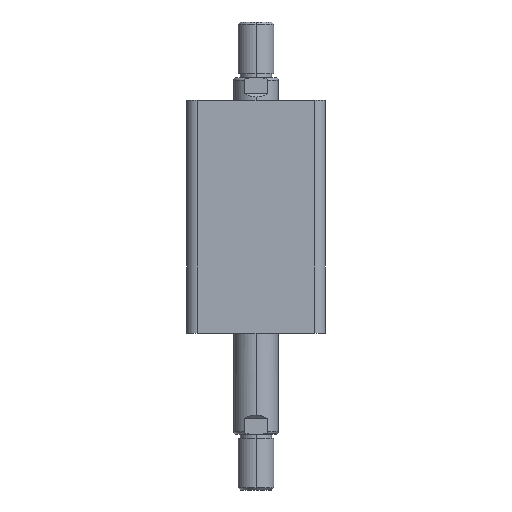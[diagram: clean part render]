
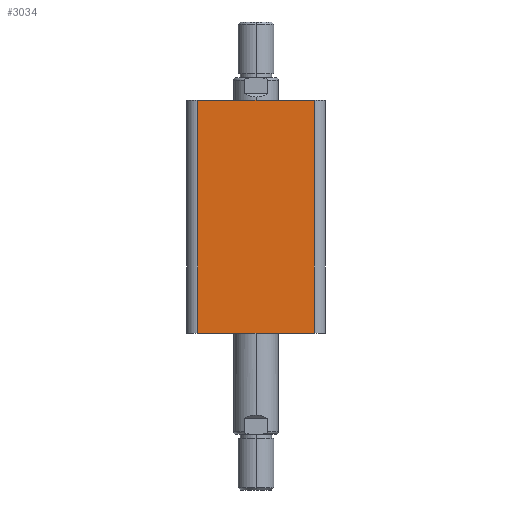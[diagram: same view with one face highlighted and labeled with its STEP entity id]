
A CAD part, left-side view. The second image highlights one B-rep face of the part: STEP entity #3034.
In plain terms, the highlighted planar face has unit normal (-1, 0, 0).
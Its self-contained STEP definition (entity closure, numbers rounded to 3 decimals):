
#69 = LINE ( 'NONE', #1128, #78 ) ;
#73 = LINE ( 'NONE', #1139, #76 ) ;
#76 = VECTOR ( 'NONE', #1140, 1000. ) ;
#77 = LINE ( 'NONE', #1142, #80 ) ;
#78 = VECTOR ( 'NONE', #1141, 1000. ) ;
#79 = LINE ( 'NONE', #1144, #82 ) ;
#80 = VECTOR ( 'NONE', #1143, 1000. ) ;
#82 = VECTOR ( 'NONE', #1145, 1000. ) ;
#260 = FACE_OUTER_BOUND ( 'NONE', #1683, .T. ) ;
#1128 = CARTESIAN_POINT ( 'NONE',  ( -31., -26., 104. ) ) ;
#1139 = CARTESIAN_POINT ( 'NONE',  ( -31., 31., 0. ) ) ;
#1140 = DIRECTION ( 'NONE',  ( 0., -1., 0. ) ) ;
#1141 = DIRECTION ( 'NONE',  ( 0., 0., 1. ) ) ;
#1142 = CARTESIAN_POINT ( 'NONE',  ( -31., 31., 104. ) ) ;
#1143 = DIRECTION ( 'NONE',  ( 0., -1., 0. ) ) ;
#1144 = CARTESIAN_POINT ( 'NONE',  ( -31., 26., 104. ) ) ;
#1145 = DIRECTION ( 'NONE',  ( 0., 0., -1. ) ) ;
#1413 = AXIS2_PLACEMENT_3D ( 'NONE', #3212, #3222, #3223 ) ;
#1626 = EDGE_CURVE ( 'NONE', #2776, #2762, #73, .T. ) ;
#1627 = EDGE_CURVE ( 'NONE', #2762, #2789, #69, .T. ) ;
#1628 = EDGE_CURVE ( 'NONE', #2779, #2789, #77, .T. ) ;
#1629 = EDGE_CURVE ( 'NONE', #2779, #2776, #79, .T. ) ;
#1683 = EDGE_LOOP ( 'NONE', ( #2423, #2424, #2425, #2426 ) ) ;
#2165 = CARTESIAN_POINT ( 'NONE',  ( -31., -26., 0. ) ) ;
#2179 = CARTESIAN_POINT ( 'NONE',  ( -31., 26., 0. ) ) ;
#2182 = CARTESIAN_POINT ( 'NONE',  ( -31., 26., 104. ) ) ;
#2192 = CARTESIAN_POINT ( 'NONE',  ( -31., -26., 104. ) ) ;
#2423 = ORIENTED_EDGE ( 'NONE', *, *, #1626, .T. ) ;
#2424 = ORIENTED_EDGE ( 'NONE', *, *, #1627, .T. ) ;
#2425 = ORIENTED_EDGE ( 'NONE', *, *, #1628, .F. ) ;
#2426 = ORIENTED_EDGE ( 'NONE', *, *, #1629, .T. ) ;
#2762 = VERTEX_POINT ( 'NONE', #2165 ) ;
#2776 = VERTEX_POINT ( 'NONE', #2179 ) ;
#2779 = VERTEX_POINT ( 'NONE', #2182 ) ;
#2789 = VERTEX_POINT ( 'NONE', #2192 ) ;
#3034 = ADVANCED_FACE ( 'NONE', ( #260 ), #3220, .F. ) ;
#3212 = CARTESIAN_POINT ( 'NONE',  ( -31., 31., 104. ) ) ;
#3220 = PLANE ( 'NONE',  #1413 ) ;
#3222 = DIRECTION ( 'NONE',  ( 1., 0., 0. ) ) ;
#3223 = DIRECTION ( 'NONE',  ( 0., 1., 0. ) ) ;
